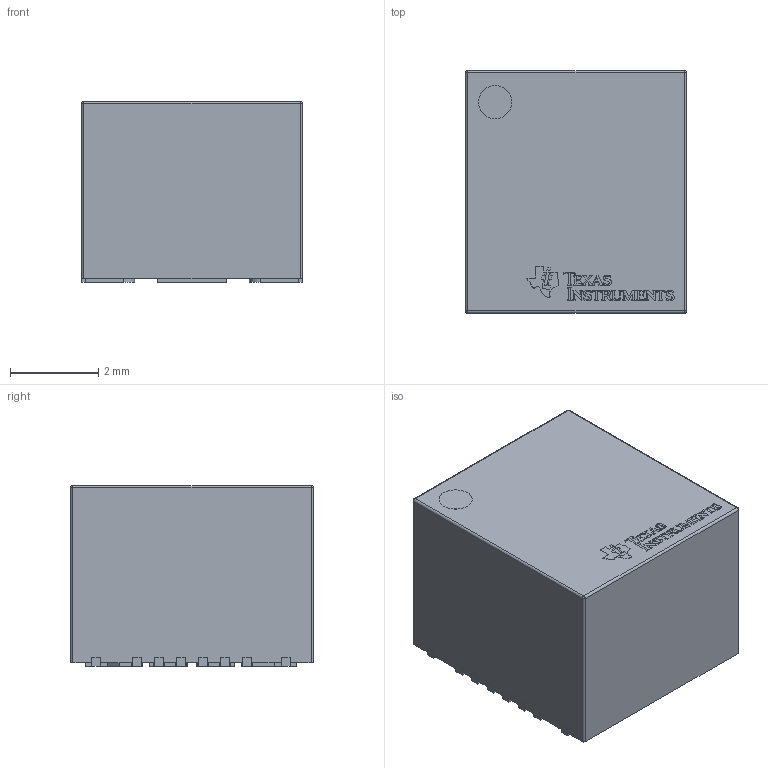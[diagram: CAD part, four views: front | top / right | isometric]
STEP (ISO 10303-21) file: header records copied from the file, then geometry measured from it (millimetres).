
FILE_DESCRIPTION(/* description */ (''),/* implementation_level */ '2;1');
FILE_NAME(/* name */ 'L:\KH_3D_lib\Texas Instrument\B3QFN20\B3QFN20.stp',/* time_stamp */ '2021-04-16T00:27:56+02:00',/* author */ ('pc'),/* organization */ (''),/* preprocessor_version */ 'ST-DEVELOPER v17',/* originating_system */ 'Autodesk Inventor 2019',/* authorisation */ '');
FILE_SCHEMA (('AUTOMOTIVE_DESIGN { 1 0 10303 214 3 1 1 }'));
Length unit declared in the file: millimetre
Products named in the file (5): B3QFN20; Body; Leads; Texas Instruments; circle
Assembly tree (4 placements, depth 2):
  B3QFN20
    Body
    Leads
    Texas Instruments
    circle
Bounding box: 5 x 5.5 x 4.1 mm (x, y, z)
Volume: 111.4 mm3; surface area: 179.9 mm2
Topology: 57 solids, 57 shells, 1144 faces, 3066 edges, 2040 vertices
Faces by surface type: plane 796, bspline 303, cylinder 41, sphere 4
Full cylindrical faces by diameter (mm): 0.75 x1
Entity records: 37754 total; most frequent: CARTESIAN_POINT 10908, ORIENTED_EDGE 6132, DIRECTION 4270, EDGE_CURVE 3066, LINE 2382, VECTOR 2382, VERTEX_POINT 2040, EDGE_LOOP 1156
